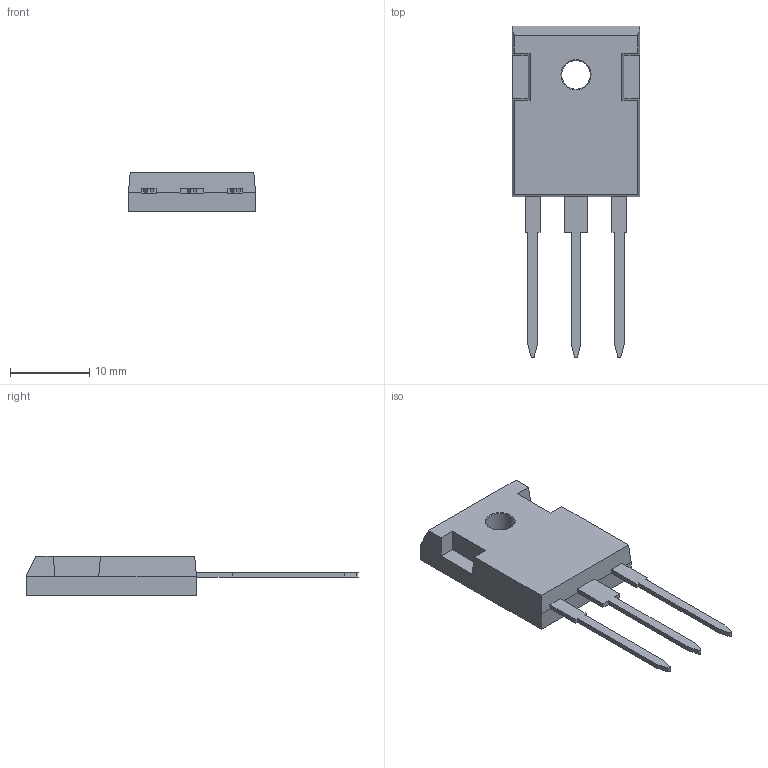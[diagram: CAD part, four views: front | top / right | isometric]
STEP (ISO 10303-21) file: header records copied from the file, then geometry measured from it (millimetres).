
FILE_DESCRIPTION (( 'STEP AP214' ), '1' );
FILE_NAME ('IXTH90P10P.STEP', '2023-02-13T08:42:43', ( '' ), ( '' ), 'SwSTEP 2.0', 'SolidWorks 2021', '' );
FILE_SCHEMA (( 'AUTOMOTIVE_DESIGN' ));
Length unit declared in the file: millimetre
Products named in the file (2): IXTH90P10P
Assembly tree (1 placements, depth 2):
  IXTH90P10P
    IXTH90P10P
Bounding box: 16 x 41.78 x 5 mm (x, y, z)
Volume: 1616 mm3; surface area: 1848.4 mm2
Topology: 5 solids, 5 shells, 93 faces, 231 edges, 150 vertices
Faces by surface type: plane 80, cylinder 9, cone 4
Entity records: 2821 total; most frequent: CARTESIAN_POINT 478, ORIENTED_EDGE 462, DIRECTION 447, EDGE_CURVE 231, VECTOR 209, LINE 209, VERTEX_POINT 150, AXIS2_PLACEMENT_3D 119
